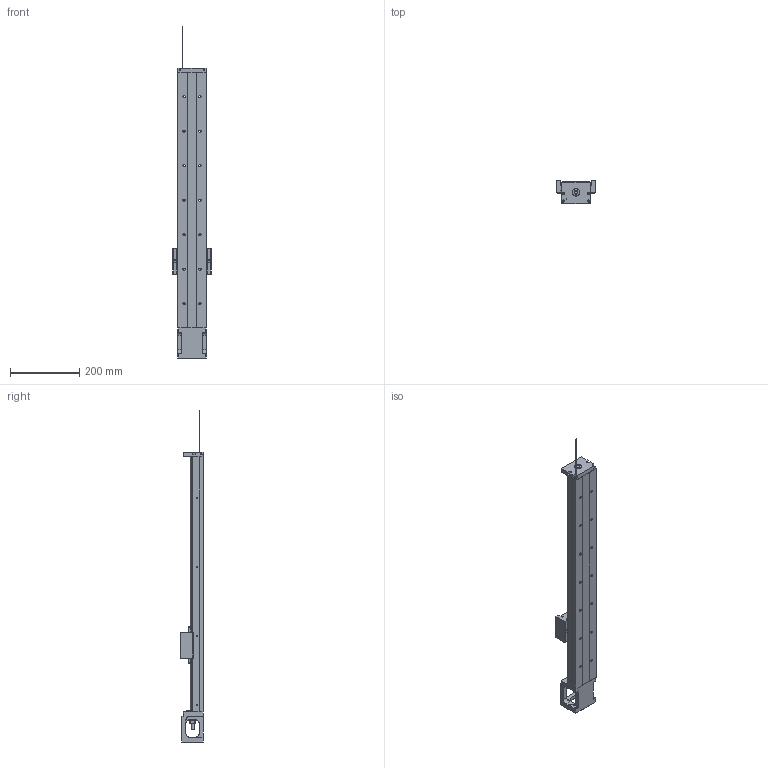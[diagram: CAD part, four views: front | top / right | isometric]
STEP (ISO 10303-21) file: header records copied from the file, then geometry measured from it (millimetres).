
FILE_DESCRIPTION(/* description */ (''),/* implementation_level */ '2;1');
FILE_NAME(/* name */ '46L-740.stp',/* time_stamp */ '2016-12-20T14:00:46+08:00',/* author */ (''),/* organization */ (''),/* preprocessor_version */ 'ST-DEVELOPER v11',/* originating_system */ 'SIEMENS UGS NX 6.0',/* authorisation */ '');
FILE_SCHEMA (('AUTOMOTIVE_DESIGN { 1 0 10303 214 1 1 1 1 }'));
Length unit declared in the file: millimetre
Products named in the file (1): model4
Bounding box: 112 x 68 x 961.69 mm (x, y, z)
Volume: 1842450.8 mm3; surface area: 395015.7 mm2
Topology: 6 solids, 14 shells, 703 faces, 1836 edges, 1205 vertices
Faces by surface type: plane 332, cylinder 253, cone 60, bspline 50, torus 8
Full cylindrical faces by diameter (mm): 2.11 x4, 2.15 x8, 2.42 x8, 2.5 x4, 3 x6, 3.2 x4, 3.3 x12, 3.4 x8, 4.2 x4, 4.5 x8, 5 x14, 6 x8, 6.35 x2, 6.6 x14, 8 x1, 9.6 x1, 10 x3, 11 x14, 12 x1, 14.95 x2, 15 x1, 16 x2, 22 x3, 27.5 x1, 44 x1, 50 x1
Entity records: 31640 total; most frequent: CARTESIAN_POINT 13070, ORIENTED_EDGE 3146, DIRECTION 3073, EDGE_CURVE 1573, AXIS2_PLACEMENT_3D 1135, VERTEX_POINT 1130, EDGE_LOOP 999, LINE 803
